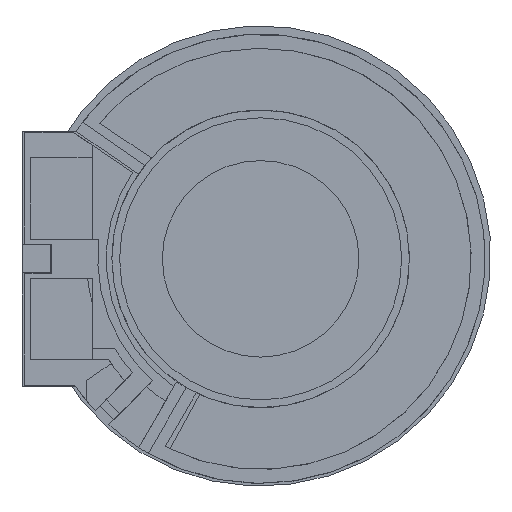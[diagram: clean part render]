
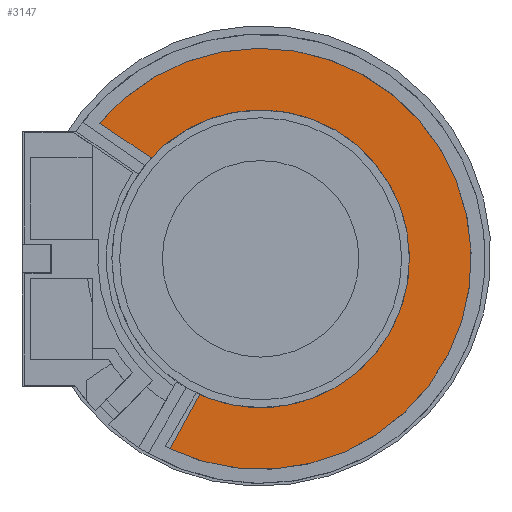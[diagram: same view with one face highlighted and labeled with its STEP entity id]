
A CAD part, front view. The second image highlights one B-rep face of the part: STEP entity #3147.
In plain terms, the highlighted planar face has unit normal (0, -1, 0).
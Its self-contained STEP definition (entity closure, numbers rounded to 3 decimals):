
#3064=CARTESIAN_POINT('',(0.,1.3,0.));
#3065=DIRECTION('',(0.,-1.,0.));
#3066=DIRECTION('',(-0.43,0.,-0.903));
#3067=AXIS2_PLACEMENT_3D('',#3064,#3065,#3066);
#3069=DIRECTION('',(0.829,0.,-0.559));
#3070=VECTOR('',#3069,2.218);
#3071=CARTESIAN_POINT('',(-5.735,1.3,4.833));
#3072=LINE('',#3071,#3070);
#3077=CARTESIAN_POINT('',(0.,1.3,0.));
#3078=DIRECTION('',(0.,1.,0.));
#3079=DIRECTION('',(-0.735,0.,0.678));
#3080=AXIS2_PLACEMENT_3D('',#3077,#3078,#3079);
#3086=DIRECTION('',(-0.477,0.,-0.879));
#3087=VECTOR('',#3086,2.204);
#3088=CARTESIAN_POINT('',(-2.17,1.3,-4.835));
#3089=LINE('',#3088,#3087);
#3117=CARTESIAN_POINT('',(-3.896,1.3,3.593));
#3119=VERTEX_POINT('',#3117);
#3121=CARTESIAN_POINT('',(-2.17,1.3,-4.835));
#3123=VERTEX_POINT('',#3121);
#3124=CARTESIAN_POINT('',(-3.222,1.3,-6.773));
#3126=VERTEX_POINT('',#3124);
#3129=CARTESIAN_POINT('',(-5.735,1.3,4.833));
#3131=VERTEX_POINT('',#3129);
#3132=CARTESIAN_POINT('',(0.883,1.3,0.));
#3133=DIRECTION('',(0.,1.,0.));
#3134=DIRECTION('',(1.,0.,0.));
#3135=AXIS2_PLACEMENT_3D('',#3132,#3133,#3134);
#3136=PLANE('',#3135);
#3138=ORIENTED_EDGE('',*,*,#3137,.F.);
#3140=ORIENTED_EDGE('',*,*,#3139,.F.);
#3142=ORIENTED_EDGE('',*,*,#3141,.F.);
#3144=ORIENTED_EDGE('',*,*,#3143,.F.);
#3145=EDGE_LOOP('',(#3138,#3140,#3142,#3144));
#3146=FACE_OUTER_BOUND('',#3145,.F.);
#3147=ADVANCED_FACE('',(#3146),#3136,.F.);
#3068=CIRCLE('',#3067,7.5);
#3081=CIRCLE('',#3080,5.3);
#3137=EDGE_CURVE('',#3126,#3131,#3068,.T.);
#3139=EDGE_CURVE('',#3123,#3126,#3089,.T.);
#3141=EDGE_CURVE('',#3119,#3123,#3081,.T.);
#3143=EDGE_CURVE('',#3131,#3119,#3072,.T.);
